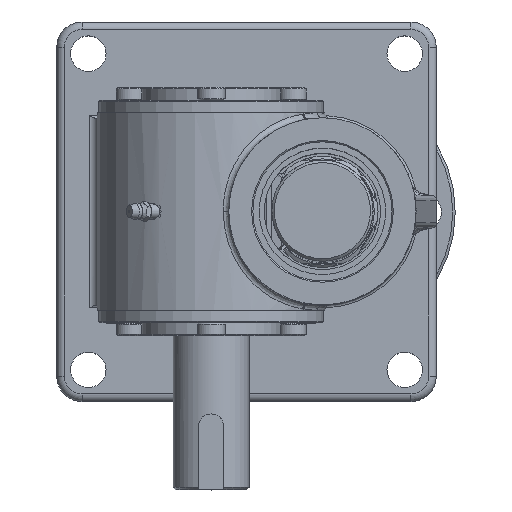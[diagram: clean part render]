
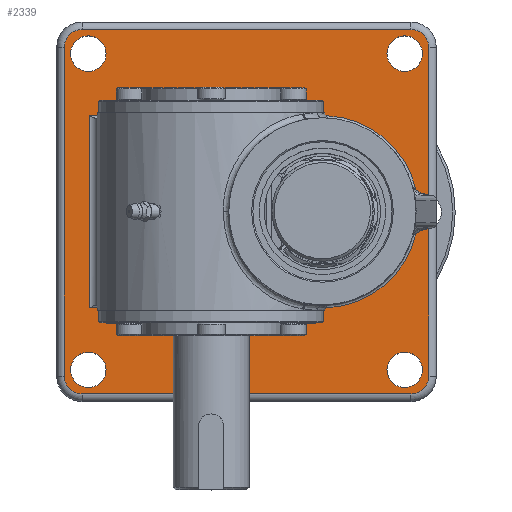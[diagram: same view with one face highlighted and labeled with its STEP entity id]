
A CAD part, top view. The second image highlights one B-rep face of the part: STEP entity #2339.
In plain terms, the highlighted planar face has unit normal (0, 0, 1).
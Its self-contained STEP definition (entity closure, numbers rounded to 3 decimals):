
#2339=ADVANCED_FACE('',(#5716,#5717,#5718,#5719,#5720),#5721,.T.);
#5716=FACE_OUTER_BOUND('',#12517,.T.);
#5717=FACE_BOUND('',#12518,.T.);
#5718=FACE_BOUND('',#12519,.T.);
#5719=FACE_BOUND('',#12520,.T.);
#5720=FACE_BOUND('',#12521,.T.);
#5721=PLANE('',#12522);
#12517=EDGE_LOOP('',(#22763,#22764,#22765,#22766,#22767,#22768,#22769,#22770,#22771,#22772,#22773,#22774,#22775,#22776,#22777,#22778,#22779,#22780,#22781,#22782,#22783,#22784,#22785,#22786));
#12518=EDGE_LOOP('',(#22787));
#12519=EDGE_LOOP('',(#22788));
#12520=EDGE_LOOP('',(#22789));
#12521=EDGE_LOOP('',(#22790));
#12522=AXIS2_PLACEMENT_3D('',#22791,#22792,#22793);
#22763=ORIENTED_EDGE('',*,*,#38853,.T.);
#22764=ORIENTED_EDGE('',*,*,#39614,.F.);
#22765=ORIENTED_EDGE('',*,*,#39158,.T.);
#22766=ORIENTED_EDGE('',*,*,#39155,.T.);
#22767=ORIENTED_EDGE('',*,*,#39235,.F.);
#22768=ORIENTED_EDGE('',*,*,#39615,.F.);
#22769=ORIENTED_EDGE('',*,*,#39616,.T.);
#22770=ORIENTED_EDGE('',*,*,#39590,.T.);
#22771=ORIENTED_EDGE('',*,*,#39617,.T.);
#22772=ORIENTED_EDGE('',*,*,#39618,.T.);
#22773=ORIENTED_EDGE('',*,*,#39619,.T.);
#22774=ORIENTED_EDGE('',*,*,#39620,.T.);
#22775=ORIENTED_EDGE('',*,*,#39621,.T.);
#22776=ORIENTED_EDGE('',*,*,#39553,.T.);
#22777=ORIENTED_EDGE('',*,*,#38793,.T.);
#22778=ORIENTED_EDGE('',*,*,#39197,.F.);
#22779=ORIENTED_EDGE('',*,*,#39336,.F.);
#22780=ORIENTED_EDGE('',*,*,#39434,.T.);
#22781=ORIENTED_EDGE('',*,*,#39622,.T.);
#22782=ORIENTED_EDGE('',*,*,#38843,.F.);
#22783=ORIENTED_EDGE('',*,*,#38837,.T.);
#22784=ORIENTED_EDGE('',*,*,#39497,.F.);
#22785=ORIENTED_EDGE('',*,*,#39623,.T.);
#22786=ORIENTED_EDGE('',*,*,#38847,.F.);
#22787=ORIENTED_EDGE('',*,*,#39377,.F.);
#22788=ORIENTED_EDGE('',*,*,#39521,.F.);
#22789=ORIENTED_EDGE('',*,*,#39587,.F.);
#22790=ORIENTED_EDGE('',*,*,#39624,.F.);
#22791=CARTESIAN_POINT('',(0.0,0.0,20.0));
#22792=DIRECTION('',(0.,0.,1.0));
#22793=DIRECTION('',(1.0,0.,0.));
#38793=EDGE_CURVE('',#45987,#45988,#45989,.T.);
#38837=EDGE_CURVE('',#46074,#46072,#46075,.T.);
#38843=EDGE_CURVE('',#46074,#46085,#46086,.T.);
#38847=EDGE_CURVE('',#46091,#46093,#46094,.T.);
#38853=EDGE_CURVE('',#46091,#46102,#46104,.T.);
#39155=EDGE_CURVE('',#46661,#46662,#46663,.T.);
#39158=EDGE_CURVE('',#46666,#46661,#46667,.T.);
#39197=EDGE_CURVE('',#46727,#45988,#46729,.T.);
#39235=EDGE_CURVE('',#46792,#46662,#46794,.T.);
#39336=EDGE_CURVE('',#46962,#46727,#46964,.T.);
#39377=EDGE_CURVE('',#47027,#47027,#47028,.T.);
#39434=EDGE_CURVE('',#46962,#47112,#47113,.T.);
#39497=EDGE_CURVE('',#47208,#46072,#47210,.T.);
#39521=EDGE_CURVE('',#47246,#47246,#47247,.T.);
#39553=EDGE_CURVE('',#47282,#45987,#47286,.T.);
#39587=EDGE_CURVE('',#47334,#47334,#47335,.T.);
#39590=EDGE_CURVE('',#47336,#47338,#47340,.T.);
#39614=EDGE_CURVE('',#46666,#46102,#47371,.T.);
#39615=EDGE_CURVE('',#47372,#46792,#47373,.T.);
#39616=EDGE_CURVE('',#47372,#47336,#47374,.T.);
#39617=EDGE_CURVE('',#47338,#47375,#47376,.T.);
#39618=EDGE_CURVE('',#47375,#47377,#47378,.T.);
#39619=EDGE_CURVE('',#47377,#47379,#47380,.T.);
#39620=EDGE_CURVE('',#47379,#47381,#47382,.T.);
#39621=EDGE_CURVE('',#47381,#47282,#47383,.T.);
#39622=EDGE_CURVE('',#47112,#46085,#47384,.T.);
#39623=EDGE_CURVE('',#47208,#46093,#47385,.T.);
#39624=EDGE_CURVE('',#47386,#47386,#47387,.T.);
#45987=VERTEX_POINT('',#58650);
#45988=VERTEX_POINT('',#58651);
#45989=LINE('',#58652,#58653);
#46072=VERTEX_POINT('',#59035);
#46074=VERTEX_POINT('',#59046);
#46075=LINE('',#59047,#59048);
#46085=VERTEX_POINT('',#59073);
#46086=LINE('',#59074,#59075);
#46091=VERTEX_POINT('',#59090);
#46093=VERTEX_POINT('',#59101);
#46094=LINE('',#59102,#59103);
#46102=VERTEX_POINT('',#59121);
#46104=LINE('',#59132,#59133);
#46661=VERTEX_POINT('',#60324);
#46662=VERTEX_POINT('',#60325);
#46663=CIRCLE('',#60326,38.0);
#46666=VERTEX_POINT('',#60351);
#46667=LINE('',#60352,#60353);
#46727=VERTEX_POINT('',#60681);
#46729=LINE('',#60684,#60685);
#46792=VERTEX_POINT('',#60932);
#46794=CIRCLE('',#60935,5.0);
#46962=VERTEX_POINT('',#61298);
#46964=CIRCLE('',#61313,5.0);
#47027=VERTEX_POINT('',#61446);
#47028=CIRCLE('',#61447,7.0);
#47112=VERTEX_POINT('',#61610);
#47113=CIRCLE('',#61611,38.0);
#47208=VERTEX_POINT('',#61750);
#47210=LINE('',#61763,#61764);
#47246=VERTEX_POINT('',#61851);
#47247=CIRCLE('',#61852,7.0);
#47282=VERTEX_POINT('',#61999);
#47286=CIRCLE('',#62003,7.0);
#47334=VERTEX_POINT('',#62061);
#47335=CIRCLE('',#62062,7.0);
#47336=VERTEX_POINT('',#62063);
#47338=VERTEX_POINT('',#62065);
#47340=CIRCLE('',#62067,7.0);
#47371=LINE('',#62113,#62114);
#47372=VERTEX_POINT('',#62115);
#47373=LINE('',#62116,#62117);
#47374=LINE('',#62118,#62119);
#47375=VERTEX_POINT('',#62120);
#47376=LINE('',#62121,#62122);
#47377=VERTEX_POINT('',#62123);
#47378=CIRCLE('',#62124,7.0);
#47379=VERTEX_POINT('',#62125);
#47380=LINE('',#62126,#62127);
#47381=VERTEX_POINT('',#62128);
#47382=CIRCLE('',#62129,7.0);
#47383=LINE('',#62130,#62131);
#47384=LINE('',#62132,#62133);
#47385=LINE('',#62134,#62135);
#47386=VERTEX_POINT('',#62136);
#47387=CIRCLE('',#62137,7.0);
#58650=CARTESIAN_POINT('',(72.0,-65.,20.0));
#58651=CARTESIAN_POINT('',(72.0,-6.683,20.0));
#58652=CARTESIAN_POINT('',(72.0,0.,20.0));
#58653=VECTOR('',#76089,1.0);
#59035=CARTESIAN_POINT('',(-47.466,-38.0,20.0));
#59046=CARTESIAN_POINT('',(-47.466,-40.0,20.0));
#59047=CARTESIAN_POINT('',(-47.466,38.0,20.0));
#59048=VECTOR('',#76158,1.0);
#59073=CARTESIAN_POINT('',(19.466,-40.0,20.0));
#59074=CARTESIAN_POINT('',(0.0,-40.0,20.0));
#59075=VECTOR('',#76167,1.0);
#59090=CARTESIAN_POINT('',(-47.466,38.0,20.0));
#59101=CARTESIAN_POINT('',(-62.0,38.0,20.0));
#59102=CARTESIAN_POINT('',(-54.733,38.0,20.0));
#59103=VECTOR('',#76169,1.0);
#59121=CARTESIAN_POINT('',(-47.466,40.0,20.0));
#59132=CARTESIAN_POINT('',(-47.466,38.0,20.0));
#59133=VECTOR('',#76177,1.0);
#60324=CARTESIAN_POINT('',(19.466,36.511,20.0));
#60325=CARTESIAN_POINT('',(67.08,8.311,20.0));
#60326=AXIS2_PLACEMENT_3D('',#76750,#76751,#76752);
#60351=CARTESIAN_POINT('',(19.466,40.0,20.0));
#60352=CARTESIAN_POINT('',(19.466,0.,20.0));
#60353=VECTOR('',#76753,1.0);
#60681=CARTESIAN_POINT('',(69.053,-7.364,20.0));
#60684=CARTESIAN_POINT('',(70.527,-7.024,20.0));
#60685=VECTOR('',#76778,1.0);
#60932=CARTESIAN_POINT('',(69.053,7.364,20.0));
#60935=AXIS2_PLACEMENT_3D('',#76819,#76820,#76821);
#61298=CARTESIAN_POINT('',(67.08,-8.311,20.0));
#61313=AXIS2_PLACEMENT_3D('',#77016,#77017,#77018);
#61446=CARTESIAN_POINT('',(69.5,-62.5,20.0));
#61447=AXIS2_PLACEMENT_3D('',#77097,#77098,#77099);
#61610=CARTESIAN_POINT('',(19.466,-36.511,20.0));
#61611=AXIS2_PLACEMENT_3D('',#77219,#77220,#77221);
#61750=CARTESIAN_POINT('',(-62.0,-38.0,20.0));
#61763=CARTESIAN_POINT('',(-54.733,-38.0,20.0));
#61764=VECTOR('',#77363,1.0);
#61851=CARTESIAN_POINT('',(-55.5,-62.5,20.0));
#61852=AXIS2_PLACEMENT_3D('',#77411,#77412,#77413);
#61999=CARTESIAN_POINT('',(65.0,-72.0,20.0));
#62003=AXIS2_PLACEMENT_3D('',#77459,#77460,#77461);
#62061=CARTESIAN_POINT('',(69.5,62.5,20.0));
#62062=AXIS2_PLACEMENT_3D('',#77541,#77542,#77543);
#62063=CARTESIAN_POINT('',(72.0,65.0,20.0));
#62065=CARTESIAN_POINT('',(65.,72.0,20.0));
#62067=AXIS2_PLACEMENT_3D('',#77550,#77551,#77552);
#62113=CARTESIAN_POINT('',(0.0,40.0,20.0));
#62114=VECTOR('',#77601,1.0);
#62115=CARTESIAN_POINT('',(72.0,6.683,20.0));
#62116=CARTESIAN_POINT('',(70.527,7.024,20.0));
#62117=VECTOR('',#77602,1.0);
#62118=CARTESIAN_POINT('',(72.0,0.,20.0));
#62119=VECTOR('',#77603,1.0);
#62120=CARTESIAN_POINT('',(-65.0,72.0,20.0));
#62121=CARTESIAN_POINT('',(0.0,72.0,20.0));
#62122=VECTOR('',#77604,1.0);
#62123=CARTESIAN_POINT('',(-72.0,65.,20.0));
#62124=AXIS2_PLACEMENT_3D('',#77605,#77606,#77607);
#62125=CARTESIAN_POINT('',(-72.0,-65.0,20.0));
#62126=CARTESIAN_POINT('',(-72.0,0.0,20.0));
#62127=VECTOR('',#77608,1.0);
#62128=CARTESIAN_POINT('',(-65.,-72.0,20.0));
#62129=AXIS2_PLACEMENT_3D('',#77609,#77610,#77611);
#62130=CARTESIAN_POINT('',(0.0,-72.0,20.0));
#62131=VECTOR('',#77612,1.0);
#62132=CARTESIAN_POINT('',(19.466,0.,20.0));
#62133=VECTOR('',#77613,1.0);
#62134=CARTESIAN_POINT('',(-62.0,0.0,20.0));
#62135=VECTOR('',#77614,1.0);
#62136=CARTESIAN_POINT('',(-55.5,62.5,20.0));
#62137=AXIS2_PLACEMENT_3D('',#77615,#77616,#77617);
#76089=DIRECTION('',(0.0,1.0,0.));
#76158=DIRECTION('',(0.0,1.0,0.0));
#76167=DIRECTION('',(1.0,0.0,0.0));
#76169=DIRECTION('',(-1.0,0.0,0.0));
#76177=DIRECTION('',(0.0,1.0,0.0));
#76750=CARTESIAN_POINT('',(30.0,0.0,20.0));
#76751=DIRECTION('',(0.,0.,-1.0));
#76752=DIRECTION('',(1.0,0.,0.));
#76753=DIRECTION('',(0.0,-1.0,0.0));
#76778=DIRECTION('',(0.974,0.225,0.0));
#76819=CARTESIAN_POINT('',(70.178,12.236,20.0));
#76820=DIRECTION('',(0.,0.,-1.0));
#76821=DIRECTION('',(1.0,0.,0.));
#77016=CARTESIAN_POINT('',(70.178,-12.236,20.0));
#77017=DIRECTION('',(0.,0.,-1.0));
#77018=DIRECTION('',(1.0,0.,0.));
#77097=CARTESIAN_POINT('',(62.5,-62.5,20.0));
#77098=DIRECTION('',(0.,0.,1.0));
#77099=DIRECTION('',(1.0,0.,0.));
#77219=CARTESIAN_POINT('',(30.0,0.0,20.0));
#77220=DIRECTION('',(0.,0.,-1.0));
#77221=DIRECTION('',(1.0,0.,0.));
#77363=DIRECTION('',(1.0,0.0,0.0));
#77411=CARTESIAN_POINT('',(-62.5,-62.5,20.0));
#77412=DIRECTION('',(0.,0.,1.0));
#77413=DIRECTION('',(1.0,0.,0.));
#77459=CARTESIAN_POINT('',(65.0,-65.0,20.0));
#77460=DIRECTION('',(0.,0.,1.0));
#77461=DIRECTION('',(1.0,0.,0.));
#77541=CARTESIAN_POINT('',(62.5,62.5,20.0));
#77542=DIRECTION('',(0.,0.,1.0));
#77543=DIRECTION('',(1.0,0.,0.));
#77550=CARTESIAN_POINT('',(65.0,65.0,20.0));
#77551=DIRECTION('',(0.,0.,1.0));
#77552=DIRECTION('',(1.0,0.,0.));
#77601=DIRECTION('',(-1.0,0.0,0.0));
#77602=DIRECTION('',(-0.974,0.225,0.0));
#77603=DIRECTION('',(0.0,1.0,0.));
#77604=DIRECTION('',(-1.0,0.0,0.));
#77605=CARTESIAN_POINT('',(-65.0,65.0,20.0));
#77606=DIRECTION('',(0.,0.,1.0));
#77607=DIRECTION('',(1.0,0.,0.));
#77608=DIRECTION('',(0.0,-1.0,0.));
#77609=CARTESIAN_POINT('',(-65.0,-65.0,20.0));
#77610=DIRECTION('',(0.,0.,1.0));
#77611=DIRECTION('',(1.0,0.,0.));
#77612=DIRECTION('',(1.0,0.0,0.));
#77613=DIRECTION('',(0.0,-1.0,0.0));
#77614=DIRECTION('',(0.0,1.0,0.));
#77615=CARTESIAN_POINT('',(-62.5,62.5,20.0));
#77616=DIRECTION('',(0.,0.,1.0));
#77617=DIRECTION('',(1.0,0.,0.));
